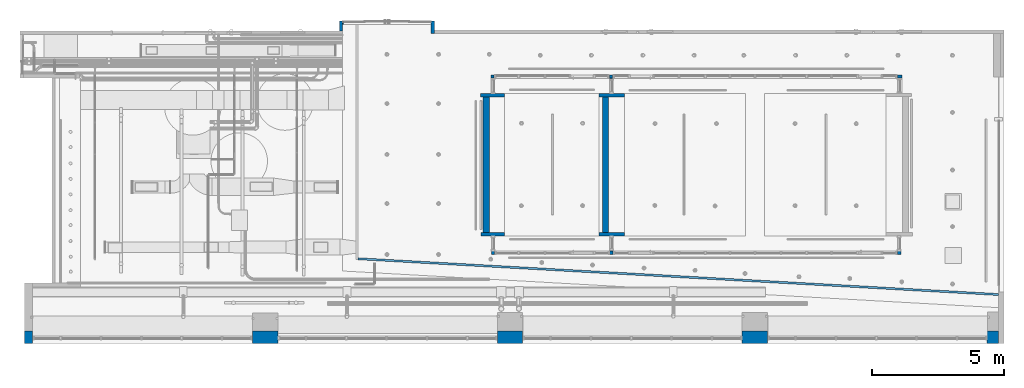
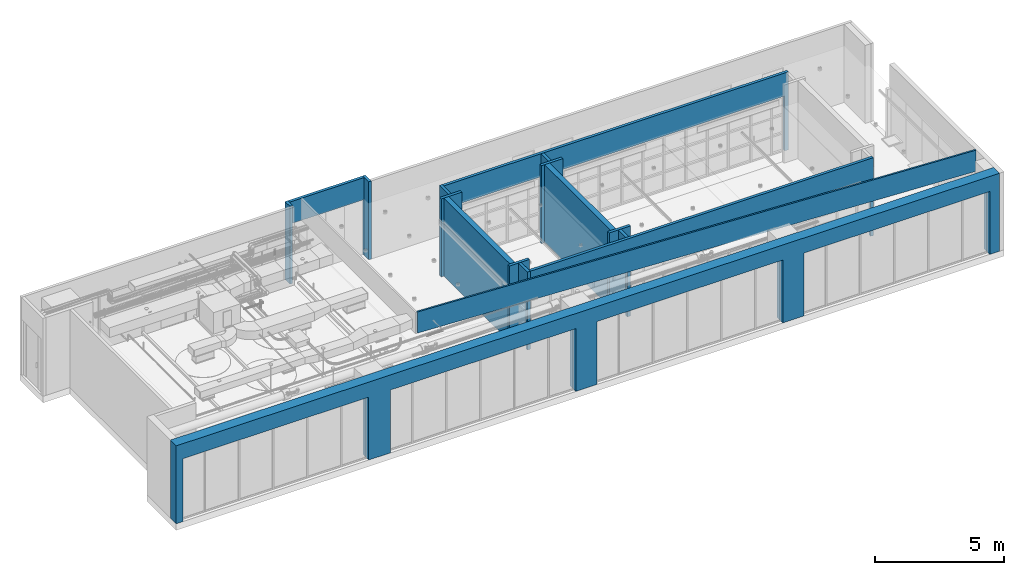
# One storey, part 18 of 108: 17 walls, 13 openings.
"""IFC4 building model written with IfcOpenShell, lengths in feet."""

from ifc_helpers import new_model, entity, si_unit, converted_unit, derived_unit, direction, frame, frame_2d, origin, place, context, subcontext, project, spatial, polyline, rectangle, outline, extrude, material, layer, layer_set, layer_usage, type_object, element, save


model = new_model("IFC4")

# Units and contexts
model_context = context("Model", 3, precision=0.0001, world=origin(), true_north=direction((6.12303176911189e-17, 1.0)))
body_context = subcontext(model_context, "Body", "Model", "MODEL_VIEW")
ifc_project = project(units=[converted_unit("LENGTHUNIT", "FOOT", entity("IfcRatioMeasure", 0.3048), si_unit("LENGTHUNIT", "METRE"), dimensions=[1, 0, 0, 0, 0, 0, 0]), converted_unit("AREAUNIT", "SQUARE FOOT", entity("IfcRatioMeasure", 0.09290304), si_unit("AREAUNIT", "SQUARE_METRE"), dimensions=[2, 0, 0, 0, 0, 0, 0]), converted_unit("VOLUMEUNIT", "CUBIC FOOT", entity("IfcRatioMeasure", 0.028316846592), si_unit("VOLUMEUNIT", "CUBIC_METRE"), dimensions=[3, 0, 0, 0, 0, 0, 0]), converted_unit("PLANEANGLEUNIT", "DEGREE", entity("IfcRatioMeasure", 0.0174532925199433), si_unit("PLANEANGLEUNIT", "RADIAN"), dimensions=[0, 0, 0, 0, 0, 0, 0]), si_unit("MASSUNIT", "GRAM", prefix="KILO"), derived_unit("MASSDENSITYUNIT", [(si_unit("MASSUNIT", "GRAM", prefix="KILO"), 1), (si_unit("LENGTHUNIT", "METRE"), -3)]), si_unit("TIMEUNIT", "SECOND"), si_unit("FREQUENCYUNIT", "HERTZ"), si_unit("THERMODYNAMICTEMPERATUREUNIT", "DEGREE_CELSIUS"), derived_unit("THERMALTRANSMITTANCEUNIT", [(si_unit("MASSUNIT", "GRAM", prefix="KILO"), 1), (si_unit("THERMODYNAMICTEMPERATUREUNIT", "KELVIN"), -1), (si_unit("TIMEUNIT", "SECOND"), -3)]), derived_unit("VOLUMETRICFLOWRATEUNIT", [(si_unit("LENGTHUNIT", "METRE"), 3), (si_unit("TIMEUNIT", "SECOND"), -1)]), si_unit("ELECTRICCURRENTUNIT", "AMPERE"), si_unit("ELECTRICVOLTAGEUNIT", "VOLT"), si_unit("POWERUNIT", "WATT"), si_unit("FORCEUNIT", "NEWTON"), si_unit("ILLUMINANCEUNIT", "LUX"), si_unit("LUMINOUSFLUXUNIT", "LUMEN"), si_unit("LUMINOUSINTENSITYUNIT", "CANDELA"), derived_unit("USERDEFINED", [(si_unit("MASSUNIT", "GRAM", prefix="KILO"), -1), (si_unit("LENGTHUNIT", "METRE"), -2), (si_unit("TIMEUNIT", "SECOND"), 3), (si_unit("LUMINOUSFLUXUNIT", "LUMEN"), 1)]), derived_unit("LINEARVELOCITYUNIT", [(si_unit("LENGTHUNIT", "METRE"), 1), (si_unit("TIMEUNIT", "SECOND"), -1)]), si_unit("PRESSUREUNIT", "PASCAL"), derived_unit("USERDEFINED", [(si_unit("LENGTHUNIT", "METRE"), -2), (si_unit("MASSUNIT", "GRAM", prefix="KILO"), 1), (si_unit("TIMEUNIT", "SECOND"), -2)])], contexts=[model_context])

# Site, building, storey
site_placement = place(None, origin())
site = spatial("IfcSite", under=ifc_project, at=site_placement, Name="Default", CompositionType="ELEMENT")
building_placement = place(site_placement, origin())
building = spatial("IfcBuilding", under=site, at=building_placement, CompositionType="ELEMENT")
storey_placement = place(building_placement, frame((0.0, 0.0, 168.0)))
storey = spatial("IfcBuildingStorey", under=building, at=storey_placement, Name="Level 15", CompositionType="ELEMENT", Elevation=168.0)

# Walls
ifc_material = material(Name="Default Wall", Category="Miscellaneous")
ifc_layer_1 = layer(ifc_material, 0.416666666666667, Name="Default Wall", Category="Miscellaneous")
ifc_layer_set_1 = layer_set([ifc_layer_1], Name="Basic Wall:Generic - 5\"")
ifc_layer_usage_1 = layer_usage(ifc_layer_set_1, "AXIS2", "POSITIVE", -0.208333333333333)
wall_type_1 = type_object("IfcWallType", Name="Basic Wall:Generic - 5\"", PredefinedType="NOTDEFINED", material=ifc_layer_set_1)
wall_1_placement = place(storey_placement, frame((-20.2965067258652, 15.6182744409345, 0.0), z_axis=(0.0, 0.0, 1.0), x_axis=(0.0, 1.0, 0.0)))
element("IfcWall", 1, at=wall_1_placement, inside=storey, type_object=wall_type_1, material=ifc_layer_usage_1, Name="Basic Wall:Generic - 5\"", ObjectType="Basic Wall:Generic - 5\"", PredefinedType="NOTDEFINED", context=body_context, shape_type="SweptSolid", body=[
    extrude(rectangle(XDim=1.23181786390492, YDim=0.416666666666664, at=frame_2d((0.615908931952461, -7.63278329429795e-16), x_axis=(-1.0, 0.0))), origin(), (0.0, 0.0, 1.0), 12.0833333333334),
])
ifc_layer_usage_2 = layer_usage(ifc_layer_set_1, "AXIS2", "POSITIVE", -0.208333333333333)
wall_2_placement = place(storey_placement, frame((-8.93262506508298, 16.8500923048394, 0.0), z_axis=(0.0, 0.0, 1.0), x_axis=(0.0, -1.0, 0.0)))
element("IfcWall", 2, at=wall_2_placement, inside=storey, type_object=wall_type_1, material=ifc_layer_usage_2, Name="Basic Wall:Generic - 5\"", ObjectType="Basic Wall:Generic - 5\"", PredefinedType="NOTDEFINED", context=body_context, shape_type="SweptSolid", body=[
    extrude(rectangle(XDim=1.53269204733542, YDim=0.416666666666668, at=frame_2d((0.76634602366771, -5.41233724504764e-16), x_axis=(-1.0, 0.0))), origin(), (0.0, 0.0, 1.0), 12.0833333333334),
])
ifc_layer_usage_3 = layer_usage(ifc_layer_set_1, "AXIS2", "POSITIVE", -0.208333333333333)
wall_3_placement = place(storey_placement, frame((-0.0252346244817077, 7.62731625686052, 0.0), z_axis=(0.0, 0.0, 1.0), x_axis=(-1.0, 0.0, 0.0)))
element("IfcWall", 3, at=wall_3_placement, inside=storey, type_object=wall_type_1, material=ifc_layer_usage_3, Name="Basic Wall:Generic - 5\"", ObjectType="Basic Wall:Generic - 5\"", PredefinedType="NOTDEFINED", context=body_context, shape_type="SweptSolid", body=[
    extrude(rectangle(XDim=3.0, YDim=0.416666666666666, at=frame_2d((1.5, -3.05311331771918e-16), x_axis=(-1.0, 0.0))), origin(), (0.0, 0.0, 1.0), 12.0833333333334),
])
ifc_layer_usage_4 = layer_usage(ifc_layer_set_1, "AXIS2", "NEGATIVE", 0.208333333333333)
wall_4_placement = place(storey_placement, frame((-2.96995245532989, -9.56793438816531, 0.0)))
element("IfcWall", 4, at=wall_4_placement, inside=storey, type_object=wall_type_1, material=ifc_layer_usage_4, Name="Basic Wall:Generic - 5\"", ObjectType="Basic Wall:Generic - 5\"", PredefinedType="NOTDEFINED", context=body_context, shape_type="SweptSolid", body=[
    extrude(rectangle(XDim=2.94471783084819, YDim=0.416666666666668, at=frame_2d((1.47235891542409, -6.93889390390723e-17), x_axis=(-1.0, 0.0))), origin(), (0.0, 0.0, 1.0), 12.0833333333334),
])
ifc_layer_usage_5 = layer_usage(ifc_layer_set_1, "AXIS2", "NEGATIVE", 0.208333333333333)
wall_5_placement = place(storey_placement, frame((11.6888401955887, 7.64831363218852, 0.0)))
element("IfcWall", 5, at=wall_5_placement, inside=storey, type_object=wall_type_1, material=ifc_layer_usage_5, Name="Basic Wall:Generic - 5\"", ObjectType="Basic Wall:Generic - 5\"", PredefinedType="NOTDEFINED", context=body_context, shape_type="SweptSolid", body=[
    extrude(rectangle(XDim=3.13238188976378, YDim=0.416666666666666, at=frame_2d((1.56619094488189, 1.66533453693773e-16), x_axis=(-1.0, 0.0))), origin(), (0.0, 0.0, 1.0), 12.0833333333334),
])
ifc_layer_usage_6 = layer_usage(ifc_layer_set_1, "AXIS2", "POSITIVE", -0.208333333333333)
wall_6_placement = place(storey_placement, frame((11.6888401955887, -9.56793438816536, 0.0)))
element("IfcWall", 6, at=wall_6_placement, inside=storey, type_object=wall_type_1, material=ifc_layer_usage_6, Name="Basic Wall:Generic - 5\"", ObjectType="Basic Wall:Generic - 5\"", PredefinedType="NOTDEFINED", context=body_context, shape_type="SweptSolid", body=[
    extrude(rectangle(XDim=3.13238188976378, YDim=0.416666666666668, at=frame_2d((1.56619094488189, 0.0), x_axis=(-1.0, 0.0))), origin(), (0.0, 0.0, 1.0), 12.0833333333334),
])

# Wall, opening
ifc_layer_usage_7 = layer_usage(ifc_layer_set_1, "AXIS2", "POSITIVE", -0.208333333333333)
wall_7_placement = place(storey_placement, frame((-1.52757741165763, 7.83564959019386, 0.0), z_axis=(0.0, 0.0, 1.0), x_axis=(0.0, 1.0, 0.0)))
wall_7 = element("IfcWall", 7, at=wall_7_placement, inside=storey, type_object=wall_type_1, material=ifc_layer_usage_7, Name="Basic Wall:Generic - 5\"", ObjectType="Basic Wall:Generic - 5\"", PredefinedType="NOTDEFINED", context=body_context, shape_type="SweptSolid", body=[
    extrude(rectangle(XDim=2.34616157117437, YDim=0.416666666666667, at=frame_2d((1.17308078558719, 6.93889390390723e-17), x_axis=(-1.0, 0.0))), origin(), (0.0, 0.0, 1.0), 12.0833333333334),
])
opening_1_placement = place(wall_7_placement, frame((0.0, 0.708333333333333, 0.0)))
element("IfcOpeningElement", 8, at=opening_1_placement, cuts=wall_7, Name="Basic Wall:Generic - 5\"", ObjectType="Opening", PredefinedType="OPENING", context=body_context, shape_type="SweptSolid", body=[
    extrude(rectangle(XDim=8.52282482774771, YDim=1.9294949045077, at=frame_2d((-1.4210854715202e-14, 4.44089209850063e-16), x_axis=(1.0, 0.0))), frame((0.964747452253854, -1.41666666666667, 4.2614124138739), z_axis=(0.0, 1.0, 0.0), x_axis=(0.0, 0.0, 1.0)), (0.0, 0.0, 1.0), 1.41666666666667),
])

# Wall, openings
ifc_layer_usage_8 = layer_usage(ifc_layer_set_1, "AXIS2", "POSITIVE", -0.208333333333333)
wall_8_placement = place(storey_placement, frame((-1.3192440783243, 9.9734778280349, 0.0)))
wall_8 = element("IfcWall", 9, at=wall_8_placement, inside=storey, type_object=wall_type_1, material=ifc_layer_usage_8, Name="Basic Wall:Generic - 5\"", ObjectType="Basic Wall:Generic - 5\"", PredefinedType="NOTDEFINED", context=body_context, shape_type="SweptSolid", body=[
    extrude(rectangle(XDim=50.5833333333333, YDim=0.416666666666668, at=frame_2d((25.2916666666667, -2.22044604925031e-16), x_axis=(-1.0, 0.0))), origin(), (0.0, 0.0, 1.0), 12.0833333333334),
])
opening_2_placement = place(wall_8_placement, frame((14.6933466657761, -0.708333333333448, 0.0)))
element("IfcOpeningElement", 10, at=opening_2_placement, cuts=wall_8, Name="Basic Wall:Generic - 5\"", ObjectType="Opening", PredefinedType="OPENING", context=body_context, shape_type="SweptSolid", body=[
    extrude(rectangle(XDim=8.52282482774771, YDim=35.2977660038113, at=frame_2d((-3.5527136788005e-15, 1.4210854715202e-14), x_axis=(0.0, 1.0))), frame((17.6488830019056, 0.0, 4.26141241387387), z_axis=(0.0, 1.0, 0.0), x_axis=(-1.0, 0.0, 0.0)), (0.0, 0.0, 1.0), 1.41666666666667),
])
opening_3_placement = place(wall_8_placement, frame((0.0, -0.70833333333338, 0.0)))
element("IfcOpeningElement", 11, at=opening_3_placement, cuts=wall_8, Name="Basic Wall:Generic - 5\"", ObjectType="Opening", PredefinedType="OPENING", context=body_context, shape_type="SweptSolid", body=[
    extrude(rectangle(XDim=8.52282482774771, YDim=14.2766799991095, at=frame_2d((0.0, 1.4210854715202e-14), x_axis=(0.0, 1.0))), frame((7.13833999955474, 0.0, 4.26141241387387), z_axis=(0.0, 1.0, 0.0), x_axis=(-1.0, 0.0, 0.0)), (0.0, 0.0, 1.0), 1.41666666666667),
])

# Wall, opening
ifc_layer_usage_9 = layer_usage(ifc_layer_set_1, "AXIS2", "POSITIVE", -0.208333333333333)
wall_9_placement = place(storey_placement, frame((13.1657692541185, 7.85664696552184, 0.0), z_axis=(0.0, 0.0, 1.0), x_axis=(0.0, 1.0, 0.0)))
wall_9 = element("IfcWall", 12, at=wall_9_placement, inside=storey, type_object=wall_type_1, material=ifc_layer_usage_9, Name="Basic Wall:Generic - 5\"", ObjectType="Basic Wall:Generic - 5\"", PredefinedType="NOTDEFINED", context=body_context, shape_type="SweptSolid", body=[
    extrude(rectangle(XDim=1.90849752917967, YDim=0.416666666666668, at=frame_2d((0.954248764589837, 0.0), x_axis=(-1.0, 0.0))), origin(), (0.0, 0.0, 1.0), 12.0833333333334),
])
opening_4_placement = place(wall_9_placement, frame((0.0, 0.708333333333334, 0.0)))
element("IfcOpeningElement", 13, at=opening_4_placement, cuts=wall_9, Name="Basic Wall:Generic - 5\"", ObjectType="Opening", PredefinedType="OPENING", context=body_context, shape_type="SweptSolid", body=[
    extrude(rectangle(XDim=8.52282482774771, YDim=1.83333333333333, at=frame_2d((-1.4210854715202e-14, -4.44089209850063e-16), x_axis=(1.0, 0.0))), frame((0.916666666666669, -1.41666666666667, 4.2614124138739), z_axis=(0.0, 1.0, 0.0), x_axis=(0.0, 0.0, 1.0)), (0.0, 0.0, 1.0), 1.41666666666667),
])

ifc_layer_usage_10 = layer_usage(ifc_layer_set_1, "AXIS2", "POSITIVE", -0.208333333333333)
wall_10_placement = place(storey_placement, frame((-1.45313140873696, -9.77626772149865, 0.0), z_axis=(0.0, 0.0, 1.0), x_axis=(0.0, -1.0, 0.0)))
wall_10 = element("IfcWall", 14, at=wall_10_placement, inside=storey, type_object=wall_type_1, material=ifc_layer_usage_10, Name="Basic Wall:Generic - 5\"", ObjectType="Basic Wall:Generic - 5\"", PredefinedType="NOTDEFINED", context=body_context, shape_type="SweptSolid", body=[
    extrude(rectangle(XDim=2.31233595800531, YDim=0.416666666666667, at=frame_2d((1.15616797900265, -9.71445146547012e-17), x_axis=(-1.0, 0.0))), origin(), (0.0, 0.0, 1.0), 12.0833333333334),
])
opening_5_placement = place(wall_10_placement, frame((1.89566929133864, -0.708333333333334, 0.0)))
element("IfcOpeningElement", 15, at=opening_5_placement, cuts=wall_10, Name="Basic Wall:Generic - 5\"", ObjectType="Opening", PredefinedType="OPENING", context=body_context, shape_type="SweptSolid", body=[
    extrude(rectangle(XDim=8.52282482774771, YDim=1.89566929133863, at=frame_2d((-1.4210854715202e-14, 0.0), x_axis=(1.0, 0.0))), frame((-0.947834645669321, 0.0, 4.2614124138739), z_axis=(0.0, 1.0, 0.0), x_axis=(0.0, 0.0, 1.0)), (0.0, 0.0, 1.0), 1.41666666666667),
])

# Wall, openings
ifc_layer_usage_11 = layer_usage(ifc_layer_set_1, "AXIS2", "POSITIVE", -0.208333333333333)
wall_11_placement = place(storey_placement, frame((-1.24479807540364, -11.8802703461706, 0.0)))
wall_11 = element("IfcWall", 16, at=wall_11_placement, inside=storey, type_object=wall_type_1, material=ifc_layer_usage_11, Name="Basic Wall:Generic - 5\"", ObjectType="Basic Wall:Generic - 5\"", PredefinedType="NOTDEFINED", context=body_context, shape_type="SweptSolid", body=[
    extrude(rectangle(XDim=50.3333333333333, YDim=0.416666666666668, at=frame_2d((25.1666666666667, 2.77555756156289e-16), x_axis=(-1.0, 0.0))), origin(), (0.0, 0.0, 1.0), 12.0833333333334),
])
opening_6_placement = place(wall_11_placement, frame((14.6668353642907, -0.708333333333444, 0.0)))
element("IfcOpeningElement", 17, at=opening_6_placement, cuts=wall_11, Name="Basic Wall:Generic - 5\"", ObjectType="Opening", PredefinedType="OPENING", context=body_context, shape_type="SweptSolid", body=[
    extrude(rectangle(XDim=8.52282482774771, YDim=35.249831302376, at=frame_2d((0.0, 1.4210854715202e-14), x_axis=(0.0, 1.0))), frame((17.624915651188, 0.0, 4.26141241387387), z_axis=(0.0, 1.0, 0.0), x_axis=(-1.0, 0.0, 0.0)), (0.0, 0.0, 1.0), 1.41666666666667),
])
opening_7_placement = place(wall_11_placement, frame((0.0, -0.70833333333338, 0.0)))
element("IfcOpeningElement", 18, at=opening_7_placement, cuts=wall_11, Name="Basic Wall:Generic - 5\"", ObjectType="Opening", PredefinedType="OPENING", context=body_context, shape_type="SweptSolid", body=[
    extrude(rectangle(XDim=8.52282482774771, YDim=14.250168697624, at=frame_2d((0.0, 1.4210854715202e-14), x_axis=(0.0, 1.0))), frame((7.125084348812, 0.0, 4.26141241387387), z_axis=(0.0, 1.0, 0.0), x_axis=(-1.0, 0.0, 0.0)), (0.0, 0.0, 1.0), 1.41666666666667),
])

# Wall, opening
ifc_layer_usage_12 = layer_usage(ifc_layer_set_1, "AXIS2", "POSITIVE", -0.208333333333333)
wall_12_placement = place(storey_placement, frame((13.2137039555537, -11.6719370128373, 0.0), z_axis=(0.0, 0.0, 1.0), x_axis=(0.0, 1.0, 0.0)))
wall_12 = element("IfcWall", 19, at=wall_12_placement, inside=storey, type_object=wall_type_1, material=ifc_layer_usage_12, Name="Basic Wall:Generic - 5\"", ObjectType="Basic Wall:Generic - 5\"", PredefinedType="NOTDEFINED", context=body_context, shape_type="SweptSolid", body=[
    extrude(rectangle(XDim=1.89566929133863, YDim=0.416666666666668, at=frame_2d((0.947834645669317, -1.80411241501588e-16), x_axis=(-1.0, 0.0))), origin(), (0.0, 0.0, 1.0), 12.0833333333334),
])
opening_8_placement = place(wall_12_placement, frame((0.0623359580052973, 0.708333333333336, 0.0)))
element("IfcOpeningElement", 20, at=opening_8_placement, cuts=wall_12, Name="Basic Wall:Generic - 5\"", ObjectType="Opening", PredefinedType="OPENING", context=body_context, shape_type="SweptSolid", body=[
    extrude(rectangle(XDim=8.52282482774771, YDim=1.83333333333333, at=frame_2d((8.88178419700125e-16, 1.4210854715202e-14), x_axis=(0.0, 1.0))), frame((0.91666666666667, -1.41666666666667, 4.26141241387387), z_axis=(0.0, 1.0, 0.0), x_axis=(-1.0, 0.0, 0.0)), (0.0, 0.0, 1.0), 1.41666666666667),
])

ifc_layer_usage_13 = layer_usage(ifc_layer_set_1, "AXIS2", "NEGATIVE", 0.208333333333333)
wall_13_placement = place(storey_placement, frame((-20.0881733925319, 16.6417589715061, 0.0)))
wall_13 = element("IfcWall", 21, at=wall_13_placement, inside=storey, type_object=wall_type_1, material=ifc_layer_usage_13, Name="Basic Wall:Generic - 5\"", ObjectType="Basic Wall:Generic - 5\"", PredefinedType="NOTDEFINED", context=body_context, shape_type="SweptSolid", body=[
    extrude(rectangle(XDim=10.9472149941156, YDim=0.416666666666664, at=frame_2d((5.47360749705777, 1.52655665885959e-16), x_axis=(-1.0, 0.0))), origin(), (0.0, 0.0, 1.0), 12.0833333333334),
])
opening_9_placement = place(wall_13_placement, frame((0.0818922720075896, -0.708333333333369, 0.0)))
element("IfcOpeningElement", 22, at=opening_9_placement, cuts=wall_13, Name="Basic Wall:Generic - 5\"", ObjectType="Opening", PredefinedType="OPENING", context=body_context, shape_type="SweptSolid", body=[
    extrude(rectangle(XDim=8.66397850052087, YDim=10.8519245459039, at=frame_2d((-1.4210854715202e-14, 8.88178419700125e-16), x_axis=(1.0, 0.0))), frame((5.42596227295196, 0.0, 4.33198925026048), z_axis=(0.0, 1.0, 0.0), x_axis=(0.0, 0.0, 1.0)), (0.0, 0.0, 1.0), 1.41666666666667),
])

# Wall, openings
ifc_layer_2 = layer(ifc_material, 1.5, Name="Default Wall", Category="Miscellaneous")
ifc_layer_set_2 = layer_set([ifc_layer_2], Name="Basic Wall:Generic - 18\"")
ifc_layer_usage_14 = layer_usage(ifc_layer_set_2, "AXIS2", "POSITIVE", -0.75)
wall_type_2 = type_object("IfcWallType", Name="Basic Wall:Generic - 18\"", PredefinedType="NOTDEFINED", material=ifc_layer_set_2)
wall_14_placement = place(storey_placement, frame((61.212954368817, -22.349102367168, 0.0), z_axis=(0.0, 0.0, 1.0), x_axis=(-1.0, 0.0, 0.0)))
wall_14 = element("IfcWall", 23, at=wall_14_placement, inside=storey, type_object=wall_type_2, material=ifc_layer_usage_14, Name="Basic Wall:Generic - 18\"", ObjectType="Basic Wall:Generic - 18\"", PredefinedType="NOTDEFINED", context=body_context, shape_type="SweptSolid", body=[
    extrude(rectangle(XDim=120.738570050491, YDim=1.5, at=frame_2d((60.3692850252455, 0.0), x_axis=(-1.0, 0.0))), origin(), (0.0, 0.0, 1.0), 12.0833333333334),
])
opening_10_placement = place(wall_14_placement, frame((28.6410842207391, 1.25000000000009, 0.0)))
element("IfcOpeningElement", 24, at=opening_10_placement, cuts=wall_14, Name="Basic Wall:Generic - 18\"", ObjectType="Opening", PredefinedType="OPENING", context=body_context, shape_type="SweptSolid", body=[
    extrude(rectangle(XDim=9.74877040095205, YDim=27.2291089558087, at=frame_2d((-1.4210854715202e-14, 0.0), x_axis=(1.0, 0.0))), frame((-13.6145544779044, -2.50000000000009, 4.87438520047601), z_axis=(0.0, 1.0, 0.0), x_axis=(0.0, 0.0, 1.0)), (0.0, 0.0, 1.0), 2.5),
])
opening_11_placement = place(wall_14_placement, frame((59.0108226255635, 1.25000000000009, 0.0)))
element("IfcOpeningElement", 25, at=opening_11_placement, cuts=wall_14, Name="Basic Wall:Generic - 18\"", ObjectType="Opening", PredefinedType="OPENING", context=body_context, shape_type="SweptSolid", body=[
    extrude(rectangle(XDim=9.74877040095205, YDim=27.2291089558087, at=frame_2d((-1.4210854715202e-14, 0.0), x_axis=(1.0, 0.0))), frame((-13.6145544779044, -2.50000000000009, 4.87438520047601), z_axis=(0.0, 1.0, 0.0), x_axis=(0.0, 0.0, 1.0)), (0.0, 0.0, 1.0), 2.5),
])
opening_12_placement = place(wall_14_placement, frame((89.3441559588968, 1.25000000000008, 0.0)))
element("IfcOpeningElement", 26, at=opening_12_placement, cuts=wall_14, Name="Basic Wall:Generic - 18\"", ObjectType="Opening", PredefinedType="OPENING", context=body_context, shape_type="SweptSolid", body=[
    extrude(rectangle(XDim=9.74877040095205, YDim=27.2291089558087, at=frame_2d((-1.4210854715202e-14, 0.0), x_axis=(1.0, 0.0))), frame((-13.6145544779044, -2.50000000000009, 4.87438520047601), z_axis=(0.0, 1.0, 0.0), x_axis=(0.0, 0.0, 1.0)), (0.0, 0.0, 1.0), 2.5),
])
opening_13_placement = place(wall_14_placement, frame((119.738570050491, 1.25000000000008, 0.0)))
element("IfcOpeningElement", 27, at=opening_13_placement, cuts=wall_14, Name="Basic Wall:Generic - 18\"", ObjectType="Opening", PredefinedType="OPENING", context=body_context, shape_type="SweptSolid", body=[
    extrude(rectangle(XDim=9.74877040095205, YDim=27.2291089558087, at=frame_2d((-1.4210854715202e-14, 0.0), x_axis=(1.0, 0.0))), frame((-13.6145544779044, -2.50000000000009, 4.87438520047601), z_axis=(0.0, 1.0, 0.0), x_axis=(0.0, 0.0, 1.0)), (0.0, 0.0, 1.0), 2.5),
])

# Walls
ifc_layer_3 = layer(ifc_material, 0.75, Name="Default Wall", Category="Miscellaneous")
ifc_layer_set_3 = layer_set([ifc_layer_3], Name="Basic Wall:Generic - 9'")
ifc_layer_usage_15 = layer_usage(ifc_layer_set_3, "AXIS2", "NEGATIVE", 0.375)
wall_type_3 = type_object("IfcWallType", Name="Basic Wall:Generic - 9'", PredefinedType="NOTDEFINED", material=ifc_layer_set_3)
wall_15_placement = place(storey_placement, frame((-2.29606795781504, 7.4189829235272, 0.0), z_axis=(0.0, 0.0, 1.0), x_axis=(0.0, -1.0, 0.0)))
element("IfcWall", 28, at=wall_15_placement, inside=storey, type_object=wall_type_3, material=ifc_layer_usage_15, Name="Basic Wall:Generic - 9'", ObjectType="Basic Wall:Generic - 9'", PredefinedType="NOTDEFINED", context=body_context, shape_type="SweptSolid", body=[
    extrude(rectangle(XDim=16.7785839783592, YDim=0.75, at=frame_2d((8.38929198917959, 2.77555756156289e-17), x_axis=(-1.0, 0.0))), origin(), (0.0, 0.0, 1.0), 12.0833333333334),
])
ifc_layer_usage_16 = layer_usage(ifc_layer_set_3, "AXIS2", "POSITIVE", -0.375)
wall_16_placement = place(storey_placement, frame((12.5053706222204, 7.43998029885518, 0.0), z_axis=(0.0, 0.0, 1.0), x_axis=(0.0, -1.0, 0.0)))
element("IfcWall", 29, at=wall_16_placement, inside=storey, type_object=wall_type_3, material=ifc_layer_usage_16, Name="Basic Wall:Generic - 9'", ObjectType="Basic Wall:Generic - 9'", PredefinedType="NOTDEFINED", context=body_context, shape_type="SweptSolid", body=[
    extrude(rectangle(XDim=16.7995813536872, YDim=0.75, at=frame_2d((8.39979067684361, -8.32667268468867e-17), x_axis=(-1.0, 0.0))), origin(), (0.0, 0.0, 1.0), 12.0833333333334),
])
ifc_layer_4 = layer(ifc_material, 0.25, Name="Default Wall", Category="Miscellaneous")
ifc_layer_set_4 = layer_set([ifc_layer_4], Name="Basic Wall:Generic - 3\"")
ifc_layer_usage_17 = layer_usage(ifc_layer_set_4, "AXIS2", "POSITIVE", -0.125)
wall_type_4 = type_object("IfcWallType", Name="Basic Wall:Generic - 3\"", PredefinedType="NOTDEFINED", material=ifc_layer_set_4)
wall_17_placement = place(storey_placement, frame((-18.178482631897, -12.6173660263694, 8.80208333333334), z_axis=(0.0, 0.0, 1.0), x_axis=(0.998441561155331, -0.0558072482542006, 0.0)))
element("IfcWall", 30, at=wall_17_placement, inside=storey, type_object=wall_type_4, material=ifc_layer_usage_17, Name="Basic Wall:Generic - 3\"", ObjectType="Basic Wall:Generic - 3\"", PredefinedType="NOTDEFINED", context=body_context, shape_type="SweptSolid", body=[
    extrude(outline(polyline([(79.5223436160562, -0.125), (79.5083700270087, 0.124999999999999), (0.0, 0.125000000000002), (0.0139735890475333, -0.124999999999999), (79.5223436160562, -0.125)])), origin(), (0.0, 0.0, 1.0), 3.28125),
])

save(model, "model.ifc")
